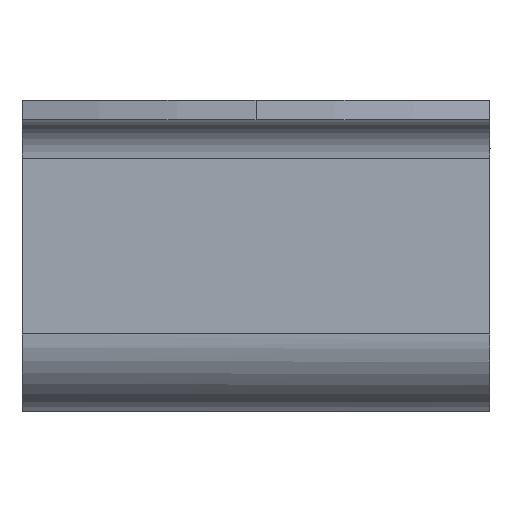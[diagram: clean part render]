
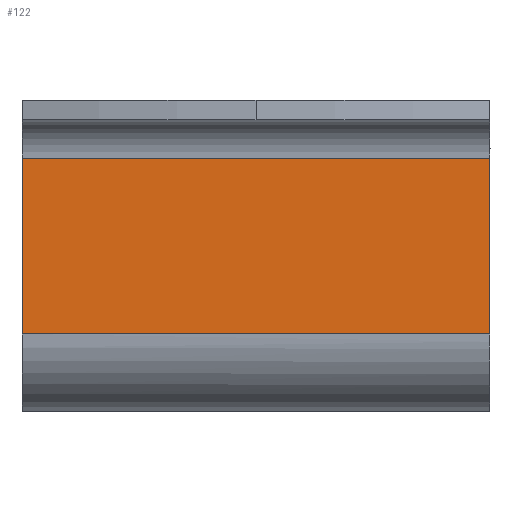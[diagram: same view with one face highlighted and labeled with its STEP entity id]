
A CAD part, left-side view. The second image highlights one B-rep face of the part: STEP entity #122.
In plain terms, the highlighted planar face has unit normal (-1, 0, 0).
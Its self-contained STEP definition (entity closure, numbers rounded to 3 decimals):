
#63=CARTESIAN_POINT('Vertex',(-25.99,-12.,22.75)) ;
#66=CARTESIAN_POINT('Line Origine',(-25.99,-12.,18.25)) ;
#70=CARTESIAN_POINT('Vertex',(-25.99,-12.,13.75)) ;
#92=CARTESIAN_POINT('Axis2P3D Location',(-25.99,-12.,22.75)) ;
#97=CARTESIAN_POINT('Line Origine',(-25.99,0.,22.75)) ;
#101=CARTESIAN_POINT('Vertex',(-25.99,12.,22.75)) ;
#104=CARTESIAN_POINT('Line Origine',(-25.99,12.,18.25)) ;
#108=CARTESIAN_POINT('Vertex',(-25.99,12.,13.75)) ;
#111=CARTESIAN_POINT('Line Origine',(-25.99,0.,13.75)) ;
#67=DIRECTION('Vector Direction',(0.,0.,1.)) ;
#93=DIRECTION('Axis2P3D Direction',(-1.,0.,0.)) ;
#94=DIRECTION('Axis2P3D XDirection',(0.,1.,0.)) ;
#98=DIRECTION('Vector Direction',(0.,1.,0.)) ;
#105=DIRECTION('Vector Direction',(0.,0.,-1.)) ;
#112=DIRECTION('Vector Direction',(0.,1.,0.)) ;
#95=AXIS2_PLACEMENT_3D('Plane Axis2P3D',#92,#93,#94) ;
#117=ORIENTED_EDGE('',*,*,#103,.F.) ;
#118=ORIENTED_EDGE('',*,*,#110,.F.) ;
#119=ORIENTED_EDGE('',*,*,#115,.F.) ;
#120=ORIENTED_EDGE('',*,*,#72,.T.) ;
#68=VECTOR('Line Direction',#67,1.) ;
#99=VECTOR('Line Direction',#98,1.) ;
#106=VECTOR('Line Direction',#105,1.) ;
#113=VECTOR('Line Direction',#112,1.) ;
#122=ADVANCED_FACE('\X2\96F64EF651E04F554F53\X0\',(#121),#96,.T.) ;
#72=EDGE_CURVE('',#71,#64,#69,.T.) ;
#103=EDGE_CURVE('',#102,#64,#100,.F.) ;
#110=EDGE_CURVE('',#109,#102,#107,.F.) ;
#115=EDGE_CURVE('',#71,#109,#114,.T.) ;
#116=EDGE_LOOP('',(#117,#118,#119,#120)) ;
#121=FACE_OUTER_BOUND('',#116,.T.) ;
#69=LINE('Line',#66,#68) ;
#100=LINE('Line',#97,#99) ;
#107=LINE('Line',#104,#106) ;
#114=LINE('Line',#111,#113) ;
#96=PLANE('Plane',#95) ;
#64=VERTEX_POINT('',#63) ;
#71=VERTEX_POINT('',#70) ;
#102=VERTEX_POINT('',#101) ;
#109=VERTEX_POINT('',#108) ;
